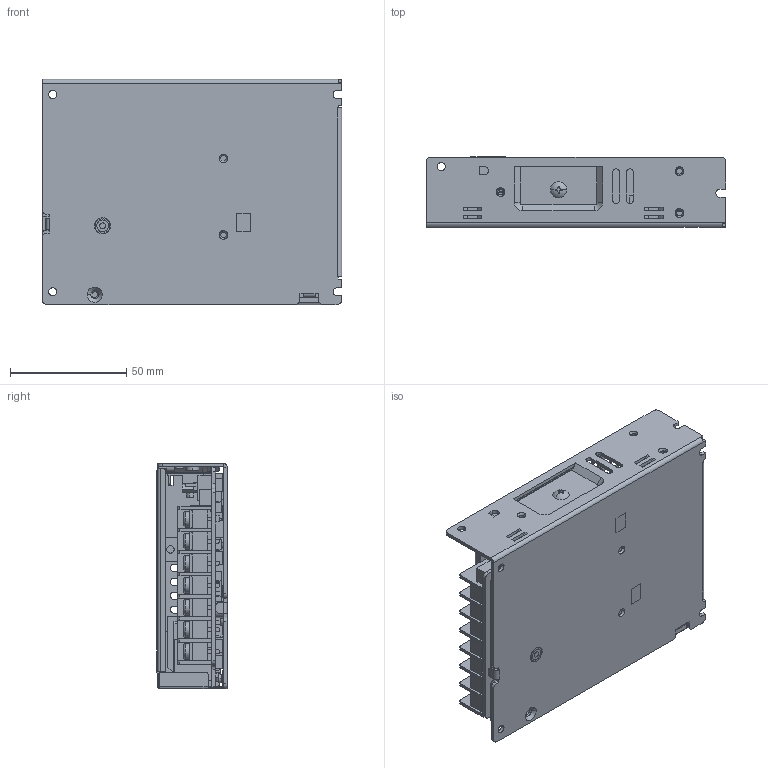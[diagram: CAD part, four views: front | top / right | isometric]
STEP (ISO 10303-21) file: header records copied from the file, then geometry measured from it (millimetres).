
FILE_DESCRIPTION((''),'2;1');
FILE_NAME('LPD-100-12','2022-08-19T13:56:14',('huangxiufeng'),(''),'CREO PARAMETRIC BY PTC INC, 2017260','CREO PARAMETRIC BY PTC INC, 2017260','');
FILE_SCHEMA(('AUTOMOTIVE_DESIGN { 1 0 10303 214 1 1 1 1 }'));
Products named in the file (1): LPD-100-12
Bounding box: 129 x 30.25 x 97 mm (x, y, z)
Surface area: 139443.5 mm2 (no closed solid volume)
Topology: 0 solids, 153 shells, 2338 faces, 6852 edges, 4573 vertices
Faces by surface type: plane 1274, cylinder 970, bspline 48, cone 30, torus 14, sphere 2
Entity records: 92142 total; most frequent: CARTESIAN_POINT 15644, DIRECTION 13437, ORIENTED_EDGE 12377, EDGE_CURVE 6850, VERTEX_POINT 4573, VECTOR 4567, LINE 4567, AXIS2_PLACEMENT_3D 4435
